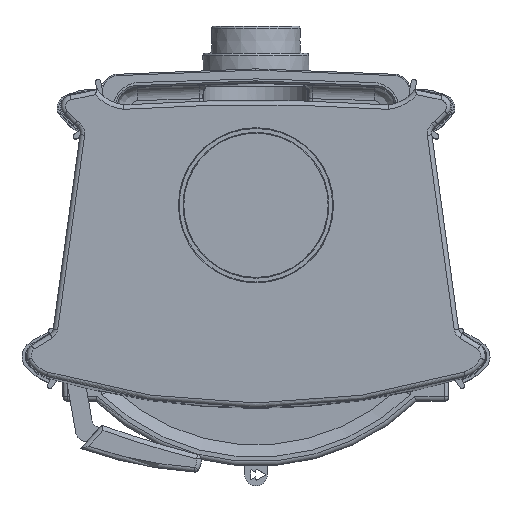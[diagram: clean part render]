
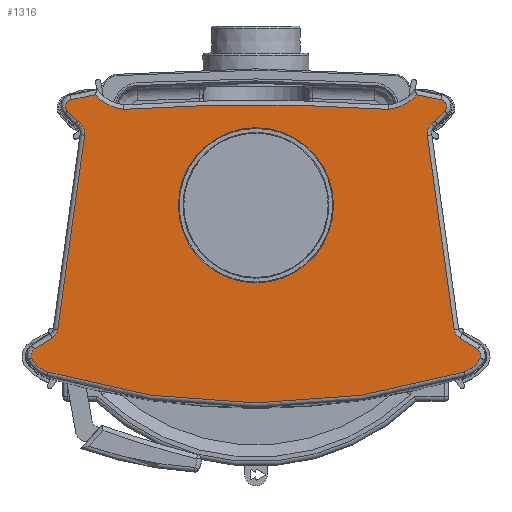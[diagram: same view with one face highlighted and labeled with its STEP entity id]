
A CAD part, top view. The second image highlights one B-rep face of the part: STEP entity #1316.
In plain terms, the highlighted planar face has unit normal (0, 0, 1).
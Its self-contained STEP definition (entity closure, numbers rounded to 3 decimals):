
#88=CARTESIAN_POINT('',(146.507,106.356,30.0));
#89=VERTEX_POINT('',#88);
#90=CARTESIAN_POINT('',(178.264,122.578,30.0));
#91=VERTEX_POINT('',#90);
#92=CARTESIAN_POINT('',(141.852,154.666,30.0));
#93=DIRECTION('',(0.0,0.0,1.));
#94=DIRECTION('',(0.488,-0.873,0.0));
#95=AXIS2_PLACEMENT_3D('',#92,#93,#94);
#96=CIRCLE('',#95,48.533);
#97=EDGE_CURVE('',#89,#91,#96,.T.);
#152=CARTESIAN_POINT('',(209.078,104.416,30.0));
#153=VERTEX_POINT('',#152);
#161=CARTESIAN_POINT('',(198.36,93.265,30.0));
#162=VERTEX_POINT('',#161);
#163=CARTESIAN_POINT('',(209.078,104.416,30.0));
#164=DIRECTION('',(-0.693,-0.721,0.0));
#165=VECTOR('',#164,15.467);
#166=LINE('',#163,#165);
#167=EDGE_CURVE('',#153,#162,#166,.T.);
#194=CARTESIAN_POINT('',(225.854,-147.122,30.0));
#195=VERTEX_POINT('',#194);
#203=CARTESIAN_POINT('',(245.973,-159.441,30.0));
#204=VERTEX_POINT('',#203);
#205=CARTESIAN_POINT('',(225.854,-147.122,30.0));
#206=DIRECTION('',(0.853,-0.522,0.0));
#207=VECTOR('',#206,23.591);
#208=LINE('',#205,#207);
#209=EDGE_CURVE('',#195,#204,#208,.T.);
#244=CARTESIAN_POINT('',(249.157,-169.658,30.0));
#245=VERTEX_POINT('',#244);
#246=CARTESIAN_POINT('',(237.961,-167.542,30.0));
#247=DIRECTION('',(0.0,0.0,-1.));
#248=DIRECTION('',(0.957,0.29,0.0));
#249=AXIS2_PLACEMENT_3D('',#246,#247,#248);
#250=CIRCLE('',#249,11.394);
#251=EDGE_CURVE('',#204,#245,#250,.T.);
#298=CARTESIAN_POINT('',(230.594,-185.12,30.0));
#299=VERTEX_POINT('',#298);
#300=CARTESIAN_POINT('',(218.984,-152.308,30.0));
#301=DIRECTION('',(0.0,0.0,-1.));
#302=DIRECTION('',(0.646,-0.763,0.0));
#303=AXIS2_PLACEMENT_3D('',#300,#301,#302);
#304=CIRCLE('',#303,34.806);
#305=EDGE_CURVE('',#245,#299,#304,.T.);
#330=CARTESIAN_POINT('',(-230.658,-185.041,30.0));
#331=VERTEX_POINT('',#330);
#332=CARTESIAN_POINT('',(0.099,577.028,30.0));
#333=DIRECTION('',(0.0,0.0,-1.));
#334=DIRECTION('',(0.,-1.,0.0));
#335=AXIS2_PLACEMENT_3D('',#332,#333,#334);
#336=CIRCLE('',#335,796.239);
#337=EDGE_CURVE('',#299,#331,#336,.T.);
#372=CARTESIAN_POINT('',(-249.215,-169.573,30.0));
#373=VERTEX_POINT('',#372);
#374=CARTESIAN_POINT('',(-219.037,-152.232,30.0));
#375=DIRECTION('',(0.0,0.0,-1.0));
#376=DIRECTION('',(-0.647,-0.763,0.0));
#377=AXIS2_PLACEMENT_3D('',#374,#375,#376);
#378=CIRCLE('',#377,34.806);
#379=EDGE_CURVE('',#331,#373,#378,.T.);
#416=CARTESIAN_POINT('',(-246.028,-159.356,30.0));
#417=VERTEX_POINT('',#416);
#418=CARTESIAN_POINT('',(-238.019,-167.46,30.0));
#419=DIRECTION('',(0.0,0.0,-1.0));
#420=DIRECTION('',(-0.957,0.29,0.0));
#421=AXIS2_PLACEMENT_3D('',#418,#419,#420);
#422=CIRCLE('',#421,11.394);
#423=EDGE_CURVE('',#373,#417,#422,.T.);
#460=CARTESIAN_POINT('',(-225.905,-147.044,30.0));
#461=VERTEX_POINT('',#460);
#478=CARTESIAN_POINT('',(-246.028,-159.356,30.0));
#479=DIRECTION('',(0.853,0.522,0.0));
#480=VECTOR('',#479,23.591);
#481=LINE('',#478,#480);
#482=EDGE_CURVE('',#417,#461,#481,.T.);
#494=CARTESIAN_POINT('',(219.765,-137.812,30.0));
#495=VERTEX_POINT('',#494);
#503=CARTESIAN_POINT('',(232.643,-136.035,30.0));
#504=DIRECTION('',(0.0,0.0,1.));
#505=DIRECTION('',(-0.837,-0.547,0.0));
#506=AXIS2_PLACEMENT_3D('',#503,#504,#505);
#507=CIRCLE('',#506,13.);
#508=EDGE_CURVE('',#495,#195,#507,.T.);
#526=CARTESIAN_POINT('',(-219.812,-137.736,30.0));
#527=VERTEX_POINT('',#526);
#545=CARTESIAN_POINT('',(-232.689,-135.955,30.0));
#546=DIRECTION('',(0.0,0.0,1.0));
#547=DIRECTION('',(0.837,-0.548,0.0));
#548=AXIS2_PLACEMENT_3D('',#545,#546,#547);
#549=CIRCLE('',#548,13.);
#550=EDGE_CURVE('',#461,#527,#549,.T.);
#562=CARTESIAN_POINT('',(190.056,77.53,30.0));
#563=VERTEX_POINT('',#562);
#571=CARTESIAN_POINT('',(190.056,77.53,30.0));
#572=DIRECTION('',(0.137,-0.991,0.0));
#573=VECTOR('',#572,217.381);
#574=LINE('',#571,#573);
#575=EDGE_CURVE('',#563,#495,#574,.T.);
#592=CARTESIAN_POINT('',(-190.029,77.595,30.0));
#593=VERTEX_POINT('',#592);
#610=CARTESIAN_POINT('',(-219.812,-137.736,30.0));
#611=DIRECTION('',(0.137,0.991,0.0));
#612=VECTOR('',#611,217.381);
#613=LINE('',#610,#612);
#614=EDGE_CURVE('',#527,#593,#613,.T.);
#626=CARTESIAN_POINT('',(194.99,90.414,30.0));
#627=VERTEX_POINT('',#626);
#635=CARTESIAN_POINT('',(204.236,79.486,30.0));
#636=DIRECTION('',(0.0,0.0,1.));
#637=DIRECTION('',(-0.934,0.358,0.0));
#638=AXIS2_PLACEMENT_3D('',#635,#636,#637);
#639=CIRCLE('',#638,14.314);
#640=EDGE_CURVE('',#627,#563,#639,.T.);
#658=CARTESIAN_POINT('',(-194.959,90.481,30.0));
#659=VERTEX_POINT('',#658);
#677=CARTESIAN_POINT('',(-204.208,79.557,30.0));
#678=DIRECTION('',(0.0,0.0,1.0));
#679=DIRECTION('',(0.934,0.357,0.0));
#680=AXIS2_PLACEMENT_3D('',#677,#678,#679);
#681=CIRCLE('',#680,14.314);
#682=EDGE_CURVE('',#593,#659,#681,.T.);
#692=CARTESIAN_POINT('',(198.36,93.265,30.0));
#693=DIRECTION('',(-0.763,-0.646,0.0));
#694=VECTOR('',#693,4.414);
#695=LINE('',#692,#694);
#696=EDGE_CURVE('',#162,#627,#695,.T.);
#723=CARTESIAN_POINT('',(-198.328,93.333,30.0));
#724=VERTEX_POINT('',#723);
#725=CARTESIAN_POINT('',(-194.959,90.481,30.0));
#726=DIRECTION('',(-0.763,0.646,0.0));
#727=VECTOR('',#726,4.414);
#728=LINE('',#725,#727);
#729=EDGE_CURVE('',#659,#724,#728,.T.);
#746=CARTESIAN_POINT('',(-209.042,104.488,30.0));
#747=VERTEX_POINT('',#746);
#764=CARTESIAN_POINT('',(-198.328,93.333,30.0));
#765=DIRECTION('',(-0.693,0.721,0.0));
#766=VECTOR('',#765,15.467);
#767=LINE('',#764,#766);
#768=EDGE_CURVE('',#724,#747,#767,.T.);
#780=CARTESIAN_POINT('',(205.24,116.885,30.0));
#781=VERTEX_POINT('',#780);
#789=CARTESIAN_POINT('',(203.7,109.586,30.0));
#790=DIRECTION('',(0.0,0.0,-1.0));
#791=DIRECTION('',(0.956,0.294,0.0));
#792=AXIS2_PLACEMENT_3D('',#789,#790,#791);
#793=CIRCLE('',#792,7.46);
#794=EDGE_CURVE('',#781,#153,#793,.T.);
#812=CARTESIAN_POINT('',(-205.2,116.956,30.0));
#813=VERTEX_POINT('',#812);
#831=CARTESIAN_POINT('',(-203.662,109.656,30.0));
#832=DIRECTION('',(0.0,0.0,-1.0));
#833=DIRECTION('',(-0.956,0.295,0.0));
#834=AXIS2_PLACEMENT_3D('',#831,#832,#833);
#835=CIRCLE('',#834,7.46);
#836=EDGE_CURVE('',#747,#813,#835,.T.);
#846=CARTESIAN_POINT('',(178.264,122.578,30.0));
#847=DIRECTION('',(0.978,-0.207,0.0));
#848=VECTOR('',#847,27.571);
#849=LINE('',#846,#848);
#850=EDGE_CURVE('',#91,#781,#849,.T.);
#877=CARTESIAN_POINT('',(-178.222,122.64,30.0));
#878=VERTEX_POINT('',#877);
#879=CARTESIAN_POINT('',(-205.2,116.956,30.0));
#880=DIRECTION('',(0.979,0.206,0.0));
#881=VECTOR('',#880,27.571);
#882=LINE('',#879,#881);
#883=EDGE_CURVE('',#813,#878,#882,.T.);
#910=CARTESIAN_POINT('',(-146.47,106.407,30.0));
#911=VERTEX_POINT('',#910);
#912=CARTESIAN_POINT('',(-141.798,154.715,30.0));
#913=DIRECTION('',(0.0,0.0,1.0));
#914=DIRECTION('',(-0.488,-0.873,0.0));
#915=AXIS2_PLACEMENT_3D('',#912,#913,#914);
#916=CIRCLE('',#915,48.533);
#917=EDGE_CURVE('',#878,#911,#916,.T.);
#954=CARTESIAN_POINT('',(-0.351,-2038.733,30.0));
#955=DIRECTION('',(0.0,0.0,-1.));
#956=DIRECTION('',(0.,1.,0.0));
#957=AXIS2_PLACEMENT_3D('',#954,#955,#956);
#958=CIRCLE('',#957,2150.11);
#959=EDGE_CURVE('',#911,#89,#958,.T.);
#1274=CARTESIAN_POINT('',(-0.008,-47.916,30.0));
#1275=DIRECTION('',(0.0,0.0,1.0));
#1276=DIRECTION('',(1.0,0.0,0.0));
#1277=AXIS2_PLACEMENT_3D('',#1274,#1275,#1276);
#1278=PLANE('',#1277);
#1279=ORIENTED_EDGE('',*,*,#209,.F.);
#1280=ORIENTED_EDGE('',*,*,#508,.F.);
#1281=ORIENTED_EDGE('',*,*,#575,.F.);
#1282=ORIENTED_EDGE('',*,*,#640,.F.);
#1283=ORIENTED_EDGE('',*,*,#696,.F.);
#1284=ORIENTED_EDGE('',*,*,#167,.F.);
#1285=ORIENTED_EDGE('',*,*,#794,.F.);
#1286=ORIENTED_EDGE('',*,*,#850,.F.);
#1287=ORIENTED_EDGE('',*,*,#97,.F.);
#1288=ORIENTED_EDGE('',*,*,#959,.F.);
#1289=ORIENTED_EDGE('',*,*,#917,.F.);
#1290=ORIENTED_EDGE('',*,*,#883,.F.);
#1291=ORIENTED_EDGE('',*,*,#836,.F.);
#1292=ORIENTED_EDGE('',*,*,#768,.F.);
#1293=ORIENTED_EDGE('',*,*,#729,.F.);
#1294=ORIENTED_EDGE('',*,*,#682,.F.);
#1295=ORIENTED_EDGE('',*,*,#614,.F.);
#1296=ORIENTED_EDGE('',*,*,#550,.F.);
#1297=ORIENTED_EDGE('',*,*,#482,.F.);
#1298=ORIENTED_EDGE('',*,*,#423,.F.);
#1299=ORIENTED_EDGE('',*,*,#379,.F.);
#1300=ORIENTED_EDGE('',*,*,#337,.F.);
#1301=ORIENTED_EDGE('',*,*,#305,.F.);
#1302=ORIENTED_EDGE('',*,*,#251,.F.);
#1303=EDGE_LOOP('',(#1279,#1280,#1281,#1282,#1283,#1284,#1285,#1286,#1287,#1288,#1289,#1290,#1291,#1292,#1293,#1294,#1295,#1296,#1297,#1298,#1299,#1300,#1301,#1302));
#1304=FACE_OUTER_BOUND('',#1303,.T.);
#1305=CARTESIAN_POINT('',(86.0,0.,30.0));
#1306=VERTEX_POINT('',#1305);
#1307=CARTESIAN_POINT('',(0.0,0.0,30.0));
#1308=DIRECTION('',(0.0,0.0,-1.0));
#1309=DIRECTION('',(-1.0,0.0,0.0));
#1310=AXIS2_PLACEMENT_3D('',#1307,#1308,#1309);
#1311=CIRCLE('',#1310,86.0);
#1312=EDGE_CURVE('',#1306,#1306,#1311,.T.);
#1313=ORIENTED_EDGE('',*,*,#1312,.T.);
#1314=EDGE_LOOP('',(#1313));
#1315=FACE_BOUND('',#1314,.T.);
#1316=ADVANCED_FACE('',(#1304,#1315),#1278,.T.);
